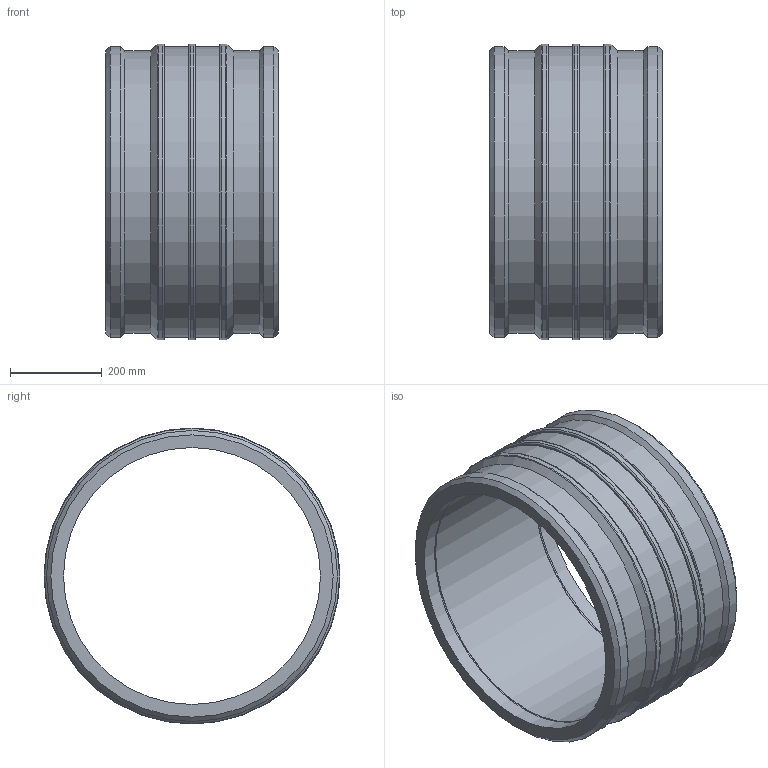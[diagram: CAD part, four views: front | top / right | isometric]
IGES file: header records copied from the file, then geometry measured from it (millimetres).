
Global section: file name: 460103560.ipt; native system: Autodesk Inventor 2015; preprocessor: unknown; author: KIM; date: 20190124.125930; units: millimetre
Bounding box: 376 x 645 x 645 mm (x, y, z)
Volume: 23786547.6 mm3; surface area: 1604119.3 mm2
Topology: 1 solids, 1 shells, 48 faces, 106 edges, 70 vertices
Faces by surface type: cylinder 15, plane 14, revolution 13, cone 6
Full cylindrical faces by diameter (mm): 4 x2, 614.98 x2, 632.1 x2, 634 x2, 645 x3
